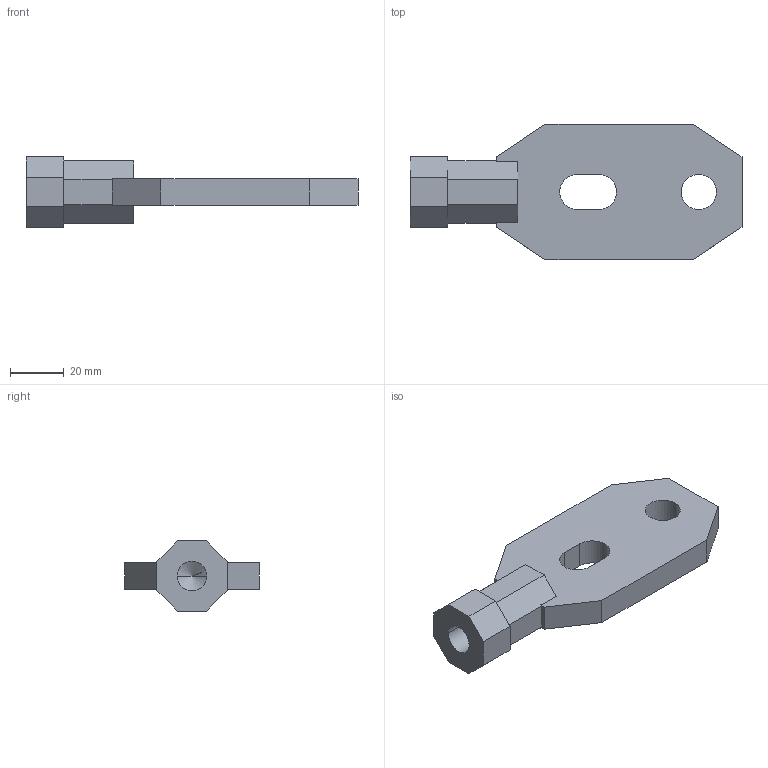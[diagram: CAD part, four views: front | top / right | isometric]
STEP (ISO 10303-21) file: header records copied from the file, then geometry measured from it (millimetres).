
FILE_DESCRIPTION((''),'2;1');
FILE_NAME('U8_SHORT_REAR_CONDUCTOR_ASSY_ASM','2018-06-04T',('HHI'),(''),'PRO/ENGINEER BY PARAMETRIC TECHNOLOGY CORPORATION, 2012453','PRO/ENGINEER BY PARAMETRIC TECHNOLOGY CORPORATION, 2012453','');
FILE_SCHEMA(('CONFIG_CONTROL_DESIGN'));
Length unit declared in the file: millimetre
Products named in the file (3): U8_SHORT_REAR_CONDUCTOR_AF0; U8_REAR_BUSBAR; U8_SHORT_REAR_CONDUCTOR_ASSY_ASM
Assembly tree (2 placements, depth 2):
  U8_SHORT_REAR_CONDUCTOR_ASSY_ASM
    U8_SHORT_REAR_CONDUCTOR_AF0
    U8_REAR_BUSBAR
Bounding box: 123 x 50 x 26 mm (x, y, z)
Volume: 52220 mm3; surface area: 16400.6 mm2
Topology: 2 solids, 2 shells, 79 faces, 208 edges, 137 vertices
Faces by surface type: plane 71, cylinder 6, cone 2
Entity records: 2480 total; most frequent: CARTESIAN_POINT 427, ORIENTED_EDGE 412, DIRECTION 386, EDGE_CURVE 206, VECTOR 194, LINE 194, VERTEX_POINT 137, AXIS2_PLACEMENT_3D 96
